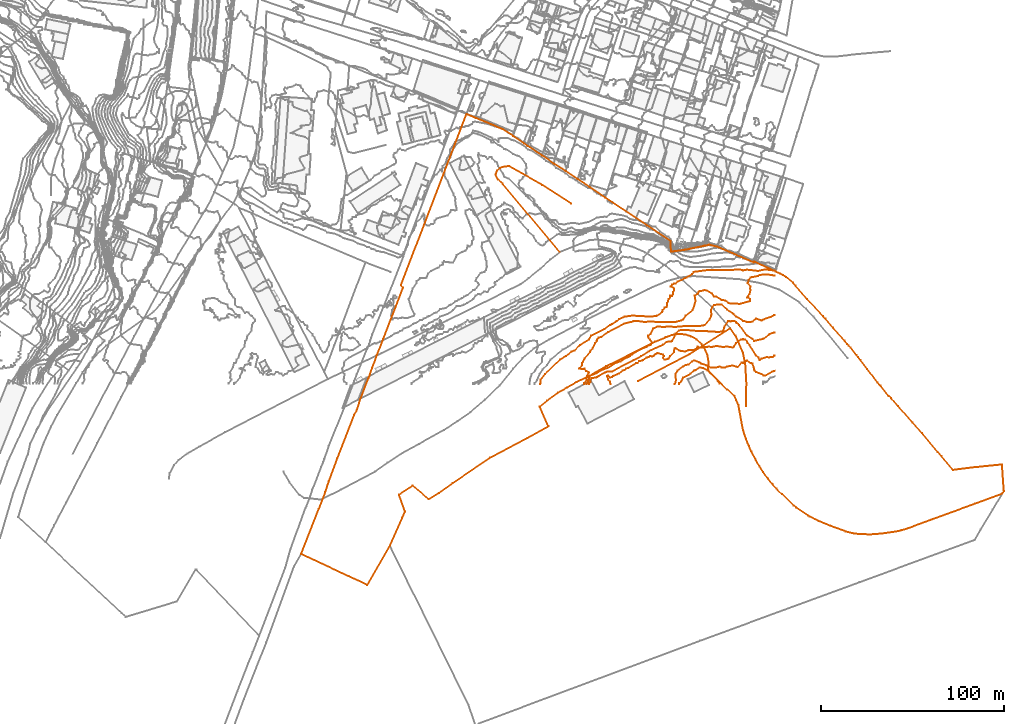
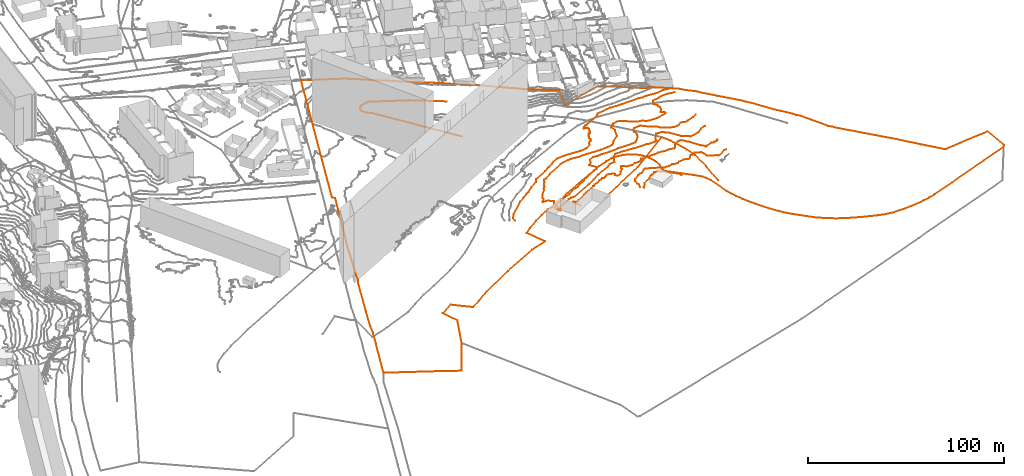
# Not in any storey, part 191 of 419: 11 proxies.
"""IFC2X3 model written with IfcOpenShell, lengths in metres."""

from ifc_helpers import new_model, entity, si_unit, frame, origin_with_axes, place, context, subcontext, project, element, save


model = new_model("IFC2X3")

# Units and contexts
model_context = context("Model", 3, precision=1e-05, world=origin_with_axes())
body_context = subcontext(model_context, "Body", "Model", "MODEL_VIEW")
ifc_project = project(units=[si_unit("AREAUNIT", "SQUARE_METRE"), si_unit("LENGTHUNIT", "METRE")], contexts=[model_context])

# Proxies
proxy_1_placement = place(None, frame((951.9920204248, 29.1976909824, 60.8), z_axis=(0.0, 0.0, 1.0), x_axis=(1.0, 0.0, 0.0)))
element("IfcBuildingElementProxy", 1, at=proxy_1_placement, Name="Route 92", ObjectType="NOTDEFINED", context=body_context, shape_type="GeometricCurveSet", body=[
    entity("IfcGeometricCurveSet", [entity("IfcPolyline", [entity("IfcCartesianPoint", [0.0, 0.0, 0.0]), entity("IfcCartesianPoint", [2.9, -4.2999999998, -0.6]), entity("IfcCartesianPoint", [6.9, -13.5999999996, -1.7]), entity("IfcCartesianPoint", [8.2, -19.7999999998, -2.0]), entity("IfcCartesianPoint", [8.7999999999, -30.0999999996, -2.8]), entity("IfcCartesianPoint", [8.5, -42.7999999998, -3.7])])]),
])
proxy_2_placement = place(None, frame((901.5920204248, 0.1976909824, 58.3), z_axis=(0.0, 0.0, 1.0), x_axis=(1.0, 0.0, 0.0)))
element("IfcBuildingElementProxy", 2, at=proxy_2_placement, Name="Route 161", ObjectType="NOTDEFINED", context=body_context, shape_type="GeometricCurveSet", body=[
    entity("IfcGeometricCurveSet", [entity("IfcPolyline", [entity("IfcCartesianPoint", [50.4, 29.0, 2.5]), entity("IfcCartesianPoint", [28.1, 14.7000000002, 0.4]), entity("IfcCartesianPoint", [0.0, 0.0, 0.0])])]),
])
proxy_3_placement = place(None, frame((823.3920204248, 113.0976909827, 71.5), z_axis=(0.0, 0.0, 1.0), x_axis=(1.0, 0.0, 0.0)))
element("IfcBuildingElementProxy", 3, at=proxy_3_placement, Name="Route 249", ObjectType="NOTDEFINED", context=body_context, shape_type="GeometricCurveSet", body=[
    entity("IfcGeometricCurveSet", [entity("IfcPolyline", [entity("IfcCartesianPoint", [35.2, -42.2999999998, -2.8]), entity("IfcCartesianPoint", [3.7999999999, -4.7999999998, 0.0]), entity("IfcCartesianPoint", [1.2999999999, -2.5, 0.0]), entity("IfcCartesianPoint", [0.0, 0.0, 0.0]), entity("IfcCartesianPoint", [0.7, 2.2000000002, 0.0]), entity("IfcCartesianPoint", [2.3999999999, 3.7999999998, 0.0]), entity("IfcCartesianPoint", [4.8999999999, 4.5999999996, 0.0]), entity("IfcCartesianPoint", [7.2999999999, 4.7000000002, 0.1]), entity("IfcCartesianPoint", [25.6, -5.5, 0.8]), entity("IfcCartesianPoint", [41.2999999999, -15.7000000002, 0.8])])]),
])
proxy_4_placement = place(None, frame((716.8020204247, -94.7123090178, 71.6362985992), z_axis=(0.0, 0.0, 1.0), x_axis=(1.0, 0.0, 0.0)))
element("IfcBuildingElementProxy", 4, at=proxy_4_placement, Name="Cadastre 322", ObjectType="NOTDEFINED", context=body_context, shape_type="GeometricCurveSet", body=[
    entity("IfcGeometricCurveSet", [entity("IfcPolyline", [entity("IfcCartesianPoint", [0.0, 0.0, 0.0]), entity("IfcCartesianPoint", [9.64, 24.5700000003, -0.0517969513]), entity("IfcCartesianPoint", [13.3300000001, 33.9800000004, -0.1625000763]), entity("IfcCartesianPoint", [15.17, 39.8700000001, -0.221498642]), entity("IfcCartesianPoint", [19.8400000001, 52.3400000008, -0.5103010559]), entity("IfcCartesianPoint", [29.0800000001, 76.1400000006, -0.7420983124]), entity("IfcCartesianPoint", [30.4800000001, 78.7700000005, -0.7700990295]), entity("IfcCartesianPoint", [32.4, 84.6400000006, -0.8711966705]), entity("IfcCartesianPoint", [36.9800000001, 96.6000000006, -1.2145969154]), entity("IfcCartesianPoint", [38.9300000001, 101.9000000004, -1.3347148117]), entity("IfcCartesianPoint", [41.4500000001, 108.7600000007, -1.4579762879]), entity("IfcCartesianPoint", [45.02, 117.79, -0.8748273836]), entity("IfcCartesianPoint", [55.8600000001, 146.0600000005, 0.6828062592]), entity("IfcCartesianPoint", [54.7000000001, 147.3000000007, 0.5906555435]), entity("IfcCartesianPoint", [90.5800000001, 241.1200000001, 4.1644204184]), entity("IfcCartesianPoint", [95.64, 238.9800000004, 3.8976608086]), entity("IfcCartesianPoint", [110.52, 232.8100000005, 3.2238228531]), entity("IfcCartesianPoint", [116.3100000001, 229.0300000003, 3.2139415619]), entity("IfcCartesianPoint", [122.1800000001, 225.0100000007, 3.0015499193]), entity("IfcCartesianPoint", [124.1000000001, 223.6300000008, 3.1212791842]), entity("IfcCartesianPoint", [132.0900000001, 218.4500000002, 2.897221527]), entity("IfcCartesianPoint", [138.4300000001, 213.9800000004, 2.6586416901]), entity("IfcCartesianPoint", [144.9900000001, 209.9100000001, 2.7509038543]), entity("IfcCartesianPoint", [151.53, 205.4500000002, 2.7365857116]), entity("IfcCartesianPoint", [158.13, 201.1100000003, 2.3907019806]), entity("IfcCartesianPoint", [166.5900000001, 195.3500000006, 2.3024200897]), entity("IfcCartesianPoint", [189.5600000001, 180.0900000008, 0.811254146]), entity("IfcCartesianPoint", [202.3600000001, 171.4900000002, 1.1457318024]), entity("IfcCartesianPoint", [202.6900000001, 165.7200000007, -4.7364280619]), entity("IfcCartesianPoint", [204.78, 165.9900000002, -5.0458697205]), entity("IfcCartesianPoint", [210.3600000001, 166.7200000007, -3.3770601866]), entity("IfcCartesianPoint", [212.4600000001, 167.1600000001, -3.063280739]), entity("IfcCartesianPoint", [221.0700000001, 168.9200000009, -3.0256118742]), entity("IfcCartesianPoint", [223.53, 169.4600000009, -2.7579472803]), entity("IfcCartesianPoint", [227.9, 168.4100000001, -3.5831963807]), entity("IfcCartesianPoint", [247.9700000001, 159.8300000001, -6.6129069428]), entity("IfcCartesianPoint", [248.0700000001, 160.3800000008, -6.1849346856]), entity("IfcCartesianPoint", [259.88, 154.8600000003, -7.8562988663]), entity("IfcCartesianPoint", [262.4300000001, 153.6800000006, -8.2727997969]), entity("IfcCartesianPoint", [264.0900000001, 152.7800000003, -8.7545988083]), entity("IfcCartesianPoint", [265.7300000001, 151.7800000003, -9.1061985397]), entity("IfcCartesianPoint", [269.4900000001, 148.6600000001, -9.2312988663]), entity("IfcCartesianPoint", [270.8100000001, 147.1200000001, -9.325897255]), entity("IfcCartesianPoint", [277.26, 139.8300000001, -9.4706986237]), entity("IfcCartesianPoint", [285.9600000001, 130.4500000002, -9.7222980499]), entity("IfcCartesianPoint", [287.27, 128.9400000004, -9.8632980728]), entity("IfcCartesianPoint", [291.38, 124.1600000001, -10.2422991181]), entity("IfcCartesianPoint", [297.75, 117.0500000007, -11.3556996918]), entity("IfcCartesianPoint", [299.27, 115.1800000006, -11.3927969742]), entity("IfcCartesianPoint", [300.05, 114.3400000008, -11.4116972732]), entity("IfcCartesianPoint", [301.1800000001, 113.1200000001, -11.4658003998]), entity("IfcCartesianPoint", [304.25, 109.1500000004, -11.6446970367]), entity("IfcCartesianPoint", [305.2400000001, 107.8900000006, -11.7206996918]), entity("IfcCartesianPoint", [306.4700000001, 106.29, -11.7444988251]), entity("IfcCartesianPoint", [310.1900000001, 101.4300000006, -12.5158989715]), entity("IfcCartesianPoint", [315.91, 94.0300000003, -13.9262995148]), entity("IfcCartesianPoint", [317.4300000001, 92.2200000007, -13.9262995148]), entity("IfcCartesianPoint", [321.9300000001, 86.7400000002, -13.9262995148]), entity("IfcCartesianPoint", [323.1800000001, 85.5900000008, -13.9262995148]), entity("IfcCartesianPoint", [327.0700000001, 81.1600000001, -13.9262995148]), entity("IfcCartesianPoint", [335.0700000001, 72.1300000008, -13.9262995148]), entity("IfcCartesianPoint", [340.2000000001, 66.4400000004, -13.9262995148]), entity("IfcCartesianPoint", [348.8400000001, 56.0600000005, -13.9262995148]), entity("IfcCartesianPoint", [350.78, 53.7600000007, -13.9262995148]), entity("IfcCartesianPoint", [357.26, 46.1400000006, -13.9262995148]), entity("IfcCartesianPoint", [358.4600000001, 46.3100000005, -13.9262995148]), entity("IfcCartesianPoint", [367.2200000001, 47.4700000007, -13.9262995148]), entity("IfcCartesianPoint", [383.6100000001, 49.0800000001, -13.9262995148]), entity("IfcCartesianPoint", [383.9800000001, 49.1100000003, -13.9262995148]), entity("IfcCartesianPoint", [385.01, 34.4600000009, -13.9262995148]), entity("IfcCartesianPoint", [384.1800000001, 33.2000000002, -13.9262995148]), entity("IfcCartesianPoint", [369.3, 27.6900000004, -13.9262995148]), entity("IfcCartesianPoint", [345.4800000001, 19.0, -13.9262995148]), entity("IfcCartesianPoint", [332.7200000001, 14.2700000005, -13.9262995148]), entity("IfcCartesianPoint", [329.1100000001, 13.1200000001, -13.9262995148]), entity("IfcCartesianPoint", [325.41, 12.3300000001, -13.9262995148]), entity("IfcCartesianPoint", [317.8500000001, 11.2700000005, -13.9262995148]), entity("IfcCartesianPoint", [312.3700000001, 10.8500000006, -13.9262995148]), entity("IfcCartesianPoint", [306.16, 10.9100000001, -13.9262995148]), entity("IfcCartesianPoint", [302.14, 11.4500000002, -13.9262995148]), entity("IfcCartesianPoint", [298.1900000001, 12.5100000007, -13.9262995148]), entity("IfcCartesianPoint", [289.7300000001, 15.5700000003, -13.9262995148]), entity("IfcCartesianPoint", [283.54, 18.1900000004, -13.9262995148]), entity("IfcCartesianPoint", [278.5800000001, 20.6600000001, -13.9262995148]), entity("IfcCartesianPoint", [277.6800000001, 21.1900000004, -13.9262995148]), entity("IfcCartesianPoint", [271.3400000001, 25.5, -13.9262995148]), entity("IfcCartesianPoint", [269.7400000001, 26.7400000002, -13.9262995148]), entity("IfcCartesianPoint", [263.4500000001, 32.8500000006, -13.9262995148]), entity("IfcCartesianPoint", [260.4400000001, 35.9100000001, -13.9262995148]), entity("IfcCartesianPoint", [258.26, 38.3400000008, -13.8944987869]), entity("IfcCartesianPoint", [255.8300000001, 41.3800000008, -13.7875000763]), entity("IfcCartesianPoint", [253.2200000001, 44.9700000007, -13.6519981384]), entity("IfcCartesianPoint", [251.29, 47.9300000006, -13.5562986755]), entity("IfcCartesianPoint", [249.05, 51.79, -13.5036979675]), entity("IfcCartesianPoint", [246.8100000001, 56.0800000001, -13.5062975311]), entity("IfcCartesianPoint", [245.39, 59.1700000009, -13.4822977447]), entity("IfcCartesianPoint", [243.8500000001, 63.0100000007, -13.4762987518]), entity("IfcCartesianPoint", [242.8100000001, 66.04, -13.4762987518]), entity("IfcCartesianPoint", [241.92, 69.1100000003, -13.5110995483]), entity("IfcCartesianPoint", [239.6100000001, 81.7600000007, -13.4636988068]), entity("IfcCartesianPoint", [238.4700000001, 84.4300000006, -13.3870986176]), entity("IfcCartesianPoint", [237.4400000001, 86.5, -13.318298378]), entity("IfcCartesianPoint", [233.4500000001, 90.2800000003, -13.189899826]), entity("IfcCartesianPoint", [223.4, 100.4400000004, -13.4849588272]), entity("IfcCartesianPoint", [223.0, 101.7400000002, -13.0886975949]), entity("IfcCartesianPoint", [223.27, 105.2800000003, -12.4585353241]), entity("IfcCartesianPoint", [222.7300000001, 108.8000000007, -12.150784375]), entity("IfcCartesianPoint", [221.4400000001, 112.1200000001, -11.8386287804]), entity("IfcCartesianPoint", [219.42, 115.0700000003, -11.5515940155]), entity("IfcCartesianPoint", [216.8100000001, 117.5, -11.2895650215]), entity("IfcCartesianPoint", [213.7300000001, 119.29, -11.215990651]), entity("IfcCartesianPoint", [210.3200000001, 120.3400000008, -11.0228979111]), entity("IfcCartesianPoint", [206.77, 120.6200000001, -10.8487007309]), entity("IfcCartesianPoint", [203.2400000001, 120.1000000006, -10.5571547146]), entity("IfcCartesianPoint", [199.91, 118.8100000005, -10.2184177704]), entity("IfcCartesianPoint", [199.39, 118.5200000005, -10.2360381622]), entity("IfcCartesianPoint", [194.01, 116.3700000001, -9.8615512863]), entity("IfcCartesianPoint", [167.0600000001, 102.9100000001, -9.3301186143]), entity("IfcCartesianPoint", [158.0, 97.6600000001, -10.0867292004]), entity("IfcCartesianPoint", [151.04, 94.3400000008, -8.4055473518]), entity("IfcCartesianPoint", [145.8300000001, 91.3600000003, -8.2266986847]), entity("IfcCartesianPoint", [140.8700000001, 88.4800000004, -8.1078998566]), entity("IfcCartesianPoint", [134.6900000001, 84.0100000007, -8.0842993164]), entity("IfcCartesianPoint", [130.76, 80.7400000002, -7.6951982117]), entity("IfcCartesianPoint", [135.52, 70.0600000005, -8.0570986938]), entity("IfcCartesianPoint", [124.0700000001, 63.7100000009, -5.4918985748]), entity("IfcCartesianPoint", [103.65, 52.8200000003, -4.8348963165]), entity("IfcCartesianPoint", [82.9400000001, 38.8400000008, -1.9322996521]), entity("IfcCartesianPoint", [75.6100000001, 33.5800000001, -1.8162989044]), entity("IfcCartesianPoint", [70.0, 30.0600000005, -1.8204981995]), entity("IfcCartesianPoint", [61.0600000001, 37.4800000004, -1.6890001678]), entity("IfcCartesianPoint", [53.65, 32.6100000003, -1.4862970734]), entity("IfcCartesianPoint", [56.9700000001, 23.4400000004, -1.5580971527]), entity("IfcCartesianPoint", [55.51, 20.0900000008, -1.5106967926]), entity("IfcCartesianPoint", [48.6900000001, 4.7800000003, -1.4272997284]), entity("IfcCartesianPoint", [36.29, -16.8099999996, -1.2013010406]), entity("IfcCartesianPoint", [26.14, -12.1199999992, -0.7402952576]), entity("IfcCartesianPoint", [0.3200000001, -0.0699999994, 0.0096020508]), entity("IfcCartesianPoint", [0.0, 0.0, 0.0])])]),
])
proxy_5_placement = place(None, frame((924.020603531, -1.6023090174, 58.0), z_axis=(0.0, 0.0, 1.0), x_axis=(1.0, 0.0, 0.0)))
element("IfcBuildingElementProxy", 5, at=proxy_5_placement, Name="Contour 58.0 m", ObjectType="NOTDEFINED", context=body_context, shape_type="GeometricCurveSet", body=[
    entity("IfcGeometricCurveSet", [entity("IfcPolyline", [entity("IfcCartesianPoint", [22.0288628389, 0.0, 0.0]), entity("IfcCartesianPoint", [22.0288628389, 0.5, 0.0]), entity("IfcCartesianPoint", [21.0714168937, 2.0625014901, 0.0]), entity("IfcCartesianPoint", [15.3839124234, 7.5, 0.0]), entity("IfcCartesianPoint", [13.0714168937, 8.8170758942, 0.0]), entity("IfcCartesianPoint", [11.0714168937, 9.1923031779, 0.0]), entity("IfcCartesianPoint", [9.0714168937, 7.7499761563, 0.0]), entity("IfcCartesianPoint", [8.0714168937, 7.4375104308, 0.0]), entity("IfcCartesianPoint", [6.0714168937, 5.6935519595, 0.0]), entity("IfcCartesianPoint", [2.0714212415, 3.5, 0.0]), entity("IfcCartesianPoint", [1.0714168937, 1.44118571, 0.0]), entity("IfcCartesianPoint", [0.0, 0.5, 0.0]), entity("IfcCartesianPoint", [0.0, 0.0, 0.0])])]),
])
proxy_6_placement = place(None, frame((921.5465665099, -1.6023090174, 59.0), z_axis=(0.0, 0.0, 1.0), x_axis=(1.0, 0.0, 0.0)))
element("IfcBuildingElementProxy", 6, at=proxy_6_placement, Name="Contour 59.0 m", ObjectType="NOTDEFINED", context=body_context, shape_type="GeometricCurveSet", body=[
    entity("IfcGeometricCurveSet", [entity("IfcPolyline", [entity("IfcCartesianPoint", [55.0454539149, 7.3717966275, 0.0]), entity("IfcCartesianPoint", [53.5454539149, 7.0238099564, 0.0]), entity("IfcCartesianPoint", [49.5454539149, 4.605266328, 0.0]), entity("IfcCartesianPoint", [48.5454539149, 4.7222269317, 0.0]), entity("IfcCartesianPoint", [47.5454539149, 5.4259243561, 0.0]), entity("IfcCartesianPoint", [44.5454539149, 6.6212142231, 0.0]), entity("IfcCartesianPoint", [43.6099712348, 7.5, 0.0]), entity("IfcCartesianPoint", [43.2597370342, 9.5, 0.0]), entity("IfcCartesianPoint", [42.5454539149, 11.3750178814, 0.0]), entity("IfcCartesianPoint", [41.5454539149, 11.4999888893, 0.0]), entity("IfcCartesianPoint", [39.5454539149, 12.833333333, 0.0]), entity("IfcCartesianPoint", [38.5454539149, 12.499983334, 0.0]), entity("IfcCartesianPoint", [37.5454539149, 11.6999694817, 0.0]), entity("IfcCartesianPoint", [36.5454539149, 11.7857220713, 0.0]), entity("IfcCartesianPoint", [34.5454539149, 9.357166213, 0.0]), entity("IfcCartesianPoint", [31.5454539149, 10.2500238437, 0.0]), entity("IfcCartesianPoint", [28.5454539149, 9.6818213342, 0.0]), entity("IfcCartesianPoint", [27.5454539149, 9.1666807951, 0.0]), entity("IfcCartesianPoint", [25.5454539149, 9.166666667, 0.0]), entity("IfcCartesianPoint", [24.5454539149, 9.6538484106, 0.0]), entity("IfcCartesianPoint", [22.5454539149, 9.0714441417, 0.0]), entity("IfcCartesianPoint", [19.5454539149, 9.0714285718, 0.0]), entity("IfcCartesianPoint", [17.5454539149, 10.3125074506, 0.0]), entity("IfcCartesianPoint", [14.5454539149, 11.2323959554, 0.0]), entity("IfcCartesianPoint", [13.5454539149, 11.9000000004, 0.0]), entity("IfcCartesianPoint", [10.5454539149, 13.0348822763, 0.0]), entity("IfcCartesianPoint", [9.4103204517, 12.5, 0.0]), entity("IfcCartesianPoint", [7.5454539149, 10.8076917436, 0.0]), entity("IfcCartesianPoint", [6.0069991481, 10.5, 0.0]), entity("IfcCartesianPoint", [4.5454539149, 9.7571444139, 0.0]), entity("IfcCartesianPoint", [1.5069985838, 7.5, 0.0]), entity("IfcCartesianPoint", [0.383289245, 5.5, 0.0]), entity("IfcCartesianPoint", [0.3826640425, 3.5, 0.0]), entity("IfcCartesianPoint", [0.8254526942, 2.5, 0.0]), entity("IfcCartesianPoint", [0.0, 0.0, 0.0])])]),
])
proxy_7_placement = place(None, frame((884.5920704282, 2.8976909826, 60.0), z_axis=(0.0, 0.0, 1.0), x_axis=(1.0, 0.0, 0.0)))
element("IfcBuildingElementProxy", 7, at=proxy_7_placement, Name="Contour 60.0 m", ObjectType="NOTDEFINED", context=body_context, shape_type="GeometricCurveSet", body=[
    entity("IfcGeometricCurveSet", [entity("IfcPolyline", [entity("IfcCartesianPoint", [91.9999499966, 11.2499761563, 0.0]), entity("IfcCartesianPoint", [91.4999499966, 11.2499761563, 0.0]), entity("IfcCartesianPoint", [90.4999499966, 10.2499761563, 0.0]), entity("IfcCartesianPoint", [89.4999499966, 10.3332909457, 0.0]), entity("IfcCartesianPoint", [88.4999499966, 9.9999800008, 0.0]), entity("IfcCartesianPoint", [87.4999499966, 10.4285558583, 0.0]), entity("IfcCartesianPoint", [84.4999499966, 9.4285558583, 0.0]), entity("IfcCartesianPoint", [83.4999499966, 8.7777730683, 0.0]), entity("IfcCartesianPoint", [82.7999423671, 10.0, 0.0]), entity("IfcCartesianPoint", [81.4999499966, 11.2142779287, 0.0]), entity("IfcCartesianPoint", [77.8777262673, 17.0, 0.0]), entity("IfcCartesianPoint", [76.7888407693, 18.0, 0.0]), entity("IfcCartesianPoint", [76.4999499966, 18.928583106, 0.0]), entity("IfcCartesianPoint", [75.4999499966, 19.857166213, 0.0]), entity("IfcCartesianPoint", [74.4999499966, 20.0908964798, 0.0]), entity("IfcCartesianPoint", [73.2499738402, 20.0, 0.0]), entity("IfcCartesianPoint", [70.4999499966, 18.142833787, 0.0]), entity("IfcCartesianPoint", [69.3888577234, 16.0, 0.0]), entity("IfcCartesianPoint", [68.4999499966, 15.5555461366, 0.0]), entity("IfcCartesianPoint", [65.4999499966, 16.1250029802, 0.0]), entity("IfcCartesianPoint", [63.4999499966, 15.8571389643, 0.0]), entity("IfcCartesianPoint", [59.4999499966, 16.4000050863, 0.0]), entity("IfcCartesianPoint", [57.4999499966, 15.9166799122, 0.0]), entity("IfcCartesianPoint", [55.4999499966, 15.9999916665, 0.0]), entity("IfcCartesianPoint", [50.4999499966, 15.4999833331, 0.0]), entity("IfcCartesianPoint", [49.4999499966, 16.071416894, 0.0]), entity("IfcCartesianPoint", [48.4999499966, 14.7500238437, 0.0]), entity("IfcCartesianPoint", [47.4999499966, 14.2499761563, 0.0]), entity("IfcCartesianPoint", [44.4999499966, 14.071416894, 0.0]), entity("IfcCartesianPoint", [42.4999499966, 13.3571389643, 0.0]), entity("IfcCartesianPoint", [39.4999499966, 13.8125074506, 0.0]), entity("IfcCartesianPoint", [37.4999499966, 15.1785694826, 0.0]), entity("IfcCartesianPoint", [36.9999599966, 15.0, 0.0]), entity("IfcCartesianPoint", [36.4999749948, 14.0, 0.0]), entity("IfcCartesianPoint", [36.499969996, 13.0, 0.0]), entity("IfcCartesianPoint", [34.3749678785, 11.0, 0.0]), entity("IfcCartesianPoint", [33.4999499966, 9.4000152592, 0.0]), entity("IfcCartesianPoint", [31.4999499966, 8.9000152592, 0.0]), entity("IfcCartesianPoint", [30.4999249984, 10.0, 0.0]), entity("IfcCartesianPoint", [31.1086442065, 11.0, 0.0]), entity("IfcCartesianPoint", [30.4999499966, 11.6363573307, 0.0]), entity("IfcCartesianPoint", [27.4999499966, 12.4999916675, 0.0]), entity("IfcCartesianPoint", [26.4999499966, 12.0714305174, 0.0]), entity("IfcCartesianPoint", [25.4999499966, 11.1499961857, 0.0]), entity("IfcCartesianPoint", [24.4999499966, 10.7142779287, 0.0]), entity("IfcCartesianPoint", [23.4999499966, 10.9000152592, 0.0]), entity("IfcCartesianPoint", [22.4999499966, 10.2777730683, 0.0]), entity("IfcCartesianPoint", [21.4999499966, 10.0975632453, 0.0]), entity("IfcCartesianPoint", [19.4999499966, 8.5999949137, 0.0]), entity("IfcCartesianPoint", [17.4999499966, 8.0963875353, 0.0]), entity("IfcCartesianPoint", [16.4999499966, 7.134614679, 0.0]), entity("IfcCartesianPoint", [15.8635926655, 7.0, 0.0]), entity("IfcCartesianPoint", [11.4999499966, 4.4117673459, 0.0]), entity("IfcCartesianPoint", [10.1666166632, 4.0, 0.0]), entity("IfcCartesianPoint", [9.4999499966, 3.2857220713, 0.0]), entity("IfcCartesianPoint", [8.4473268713, 3.0, 0.0]), entity("IfcCartesianPoint", [6.4999499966, 1.4444538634, 0.0]), entity("IfcCartesianPoint", [3.2142279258, 0.0, 0.0]), entity("IfcCartesianPoint", [2.4999499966, -0.7142779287, 0.0]), entity("IfcCartesianPoint", [1.4999499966, -0.7500238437, 0.0]), entity("IfcCartesianPoint", [0.4999499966, 0.142833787, 0.0]), entity("IfcCartesianPoint", [0.0, 0.0, 0.0]), entity("IfcCartesianPoint", [0.4999499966, -1.999900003, 0.0]), entity("IfcCartesianPoint", [1.4090535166, -3.0, 0.0]), entity("IfcCartesianPoint", [1.83328333, -4.5, 0.0])])]),
])
proxy_8_placement = place(None, frame((874.7084602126, -1.6023090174, 61.0), z_axis=(0.0, 0.0, 1.0), x_axis=(1.0, 0.0, 0.0)))
element("IfcBuildingElementProxy", 8, at=proxy_8_placement, Name="Contour 61.0 m", ObjectType="NOTDEFINED", context=body_context, shape_type="GeometricCurveSet", body=[
    entity("IfcGeometricCurveSet", [entity("IfcPolyline", [entity("IfcCartesianPoint", [101.8835602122, 28.3076940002, 0.0]), entity("IfcCartesianPoint", [100.3835602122, 28.1249910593, 0.0]), entity("IfcCartesianPoint", [98.3835602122, 27.2222269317, 0.0]), entity("IfcCartesianPoint", [95.3835602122, 24.8636426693, 0.0]), entity("IfcCartesianPoint", [90.3835602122, 23.7307647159, 0.0]), entity("IfcCartesianPoint", [89.3835602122, 24.7142779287, 0.0]), entity("IfcCartesianPoint", [86.3835602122, 26.586958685, 0.0]), entity("IfcCartesianPoint", [82.1648109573, 32.5, 0.0]), entity("IfcCartesianPoint", [80.7519786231, 33.5, 0.0]), entity("IfcCartesianPoint", [80.3835602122, 34.166666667, 0.0]), entity("IfcCartesianPoint", [79.3835602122, 34.6874925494, 0.0]), entity("IfcCartesianPoint", [77.3835602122, 34.4230882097, 0.0]), entity("IfcCartesianPoint", [76.3835602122, 34.7000000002, 0.0]), entity("IfcCartesianPoint", [76.0502268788, 34.5, 0.0]), entity("IfcCartesianPoint", [74.0199175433, 31.5, 0.0]), entity("IfcCartesianPoint", [73.3835602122, 29.1250059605, 0.0]), entity("IfcCartesianPoint", [72.3835602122, 28.7307647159, 0.0]), entity("IfcCartesianPoint", [69.3835602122, 28.6071389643, 0.0]), entity("IfcCartesianPoint", [67.3835602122, 28.941856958, 0.0]), entity("IfcCartesianPoint", [60.3835602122, 28.9999983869, 0.0]), entity("IfcCartesianPoint", [53.3835602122, 29.6607141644, 0.0]), entity("IfcCartesianPoint", [49.2169147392, 29.5, 0.0]), entity("IfcCartesianPoint", [47.3835602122, 27.833333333, 0.0]), entity("IfcCartesianPoint", [45.3835602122, 23.4999900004, 0.0]), entity("IfcCartesianPoint", [42.3835602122, 23.166659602, 0.0]), entity("IfcCartesianPoint", [40.3835602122, 21.624996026, 0.0]), entity("IfcCartesianPoint", [32.3835602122, 17.9583326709, 0.0]), entity("IfcCartesianPoint", [28.3835602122, 15.2999961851, 0.0]), entity("IfcCartesianPoint", [24.3835602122, 13.0909106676, 0.0]), entity("IfcCartesianPoint", [12.3835602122, 7.0434793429, 0.0]), entity("IfcCartesianPoint", [10.3835602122, 7.0135137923, 0.0]), entity("IfcCartesianPoint", [8.6108321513, 6.5, 0.0]), entity("IfcCartesianPoint", [5.0978381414, 4.5, 0.0]), entity("IfcCartesianPoint", [4.3835602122, 3.7857220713, 0.0]), entity("IfcCartesianPoint", [1.3835602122, 3.2727280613, 0.0]), entity("IfcCartesianPoint", [0.439107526, 2.5, 0.0]), entity("IfcCartesianPoint", [0.7619380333, 1.5, 0.0]), entity("IfcCartesianPoint", [0.0, 0.5, 0.0]), entity("IfcCartesianPoint", [0.0, 0.0, 0.0])])]),
])
proxy_9_placement = place(None, frame((873.3683356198, -1.6023090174, 62.0), z_axis=(0.0, 0.0, 1.0), x_axis=(1.0, 0.0, 0.0)))
element("IfcBuildingElementProxy", 9, at=proxy_9_placement, Name="Contour 62.0 m", ObjectType="NOTDEFINED", context=body_context, shape_type="GeometricCurveSet", body=[
    entity("IfcGeometricCurveSet", [entity("IfcPolyline", [entity("IfcCartesianPoint", [103.223684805, 37.9999750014, 0.0]), entity("IfcCartesianPoint", [102.723684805, 37.9999750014, 0.0]), entity("IfcCartesianPoint", [100.723684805, 36.8333192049, 0.0]), entity("IfcCartesianPoint", [96.723684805, 35.4999909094, 0.0]), entity("IfcCartesianPoint", [95.723684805, 34.9166640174, 0.0]), entity("IfcCartesianPoint", [92.723684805, 35.8333192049, 0.0]), entity("IfcCartesianPoint", [90.723684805, 34.4000152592, 0.0]), entity("IfcCartesianPoint", [89.723684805, 33.9999900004, 0.0]), entity("IfcCartesianPoint", [87.723684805, 34.0555461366, 0.0]), entity("IfcCartesianPoint", [85.723684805, 34.6818213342, 0.0]), entity("IfcCartesianPoint", [81.723684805, 37.0454640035, 0.0]), entity("IfcCartesianPoint", [80.4273822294, 38.5, 0.0]), entity("IfcCartesianPoint", [76.723684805, 40.833333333, 0.0]), entity("IfcCartesianPoint", [73.723684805, 43.517854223, 0.0]), entity("IfcCartesianPoint", [72.723684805, 43.7272719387, 0.0]), entity("IfcCartesianPoint", [69.723684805, 43.3750178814, 0.0]), entity("IfcCartesianPoint", [68.8486669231, 42.5, 0.0]), entity("IfcCartesianPoint", [67.9736609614, 40.5, 0.0]), entity("IfcCartesianPoint", [68.323684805, 38.5, 0.0]), entity("IfcCartesianPoint", [68.1782208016, 37.5, 0.0]), entity("IfcCartesianPoint", [67.2792309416, 35.5, 0.0]), entity("IfcCartesianPoint", [64.523684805, 32.5, 0.0]), entity("IfcCartesianPoint", [63.723684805, 32.1363573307, 0.0]), entity("IfcCartesianPoint", [60.723684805, 31.7692313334, 0.0]), entity("IfcCartesianPoint", [53.723684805, 31.8333298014, 0.0]), entity("IfcCartesianPoint", [48.723684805, 31.3666638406, 0.0]), entity("IfcCartesianPoint", [43.723684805, 31.5222186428, 0.0]), entity("IfcCartesianPoint", [42.723684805, 31.2179467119, 0.0]), entity("IfcCartesianPoint", [38.723684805, 31.5731677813, 0.0]), entity("IfcCartesianPoint", [36.3903514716, 30.5, 0.0]), entity("IfcCartesianPoint", [34.9236542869, 27.5, 0.0]), entity("IfcCartesianPoint", [33.5237153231, 26.5, 0.0]), entity("IfcCartesianPoint", [33.723684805, 25.500099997, 0.0]), entity("IfcCartesianPoint", [34.723684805, 24.500099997, 0.0]), entity("IfcCartesianPoint", [35.723684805, 22.8332909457, 0.0]), entity("IfcCartesianPoint", [35.8005965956, 22.5, 0.0]), entity("IfcCartesianPoint", [34.8436799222, 21.5, 0.0]), entity("IfcCartesianPoint", [33.723684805, 21.2142818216, 0.0]), entity("IfcCartesianPoint", [32.723684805, 20.467747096, 0.0]), entity("IfcCartesianPoint", [29.723684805, 19.2500047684, 0.0]), entity("IfcCartesianPoint", [24.723684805, 16.3500038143, 0.0]), entity("IfcCartesianPoint", [23.723684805, 15.3148179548, 0.0]), entity("IfcCartesianPoint", [20.723684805, 13.9736884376, 0.0]), entity("IfcCartesianPoint", [18.5472194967, 12.5, 0.0]), entity("IfcCartesianPoint", [15.723684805, 11.6777815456, 0.0]), entity("IfcCartesianPoint", [11.723684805, 8.9705875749, 0.0]), entity("IfcCartesianPoint", [8.723684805, 7.9642847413, 0.0]), entity("IfcCartesianPoint", [4.723684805, 5.7833310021, 0.0]), entity("IfcCartesianPoint", [1.723684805, 4.6951218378, 0.0]), entity("IfcCartesianPoint", [0.0, 0.0, 0.0])])]),
])
proxy_10_placement = place(None, frame((869.0921204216, 6.8976909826, 63.0), z_axis=(0.0, 0.0, 1.0), x_axis=(1.0, 0.0, 0.0)))
element("IfcBuildingElementProxy", 10, at=proxy_10_placement, Name="Contour 63.0 m", ObjectType="NOTDEFINED", context=body_context, shape_type="GeometricCurveSet", body=[
    entity("IfcGeometricCurveSet", [entity("IfcPolyline", [entity("IfcCartesianPoint", [107.4999000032, 50.901961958, 0.0]), entity("IfcCartesianPoint", [102.9999000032, 51.5789489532, 0.0]), entity("IfcCartesianPoint", [98.9999000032, 51.3571389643, 0.0]), entity("IfcCartesianPoint", [97.9999000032, 50.7777730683, 0.0]), entity("IfcCartesianPoint", [93.9999200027, 50.0, 0.0]), entity("IfcCartesianPoint", [92.9999000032, 48.4999499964, 0.0]), entity("IfcCartesianPoint", [92.4284558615, 47.0, 0.0]), entity("IfcCartesianPoint", [93.999911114, 45.0, 0.0]), entity("IfcCartesianPoint", [93.6665666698, 44.0, 0.0]), entity("IfcCartesianPoint", [93.9999200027, 43.0, 0.0]), entity("IfcCartesianPoint", [93.3999152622, 41.0, 0.0]), entity("IfcCartesianPoint", [92.0, 39.0, 0.0]), entity("IfcCartesianPoint", [92.9999000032, 38.857166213, 0.0]), entity("IfcCartesianPoint", [93.8570662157, 38.0, 0.0]), entity("IfcCartesianPoint", [93.6666090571, 37.0, 0.0]), entity("IfcCartesianPoint", [87.9999000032, 35.4999916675, 0.0]), entity("IfcCartesianPoint", [82.9999000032, 35.6315778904, 0.0]), entity("IfcCartesianPoint", [81.9999000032, 35.954552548, 0.0]), entity("IfcCartesianPoint", [79.9999000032, 37.2916679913, 0.0]), entity("IfcCartesianPoint", [77.9999000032, 37.714283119, 0.0]), entity("IfcCartesianPoint", [74.9999000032, 39.4179097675, 0.0]), entity("IfcCartesianPoint", [73.9999000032, 39.6236576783, 0.0]), entity("IfcCartesianPoint", [72.9999000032, 41.0151489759, 0.0]), entity("IfcCartesianPoint", [69.9999000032, 42.8571480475, 0.0]), entity("IfcCartesianPoint", [68.6665666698, 43.0, 0.0]), entity("IfcCartesianPoint", [65.9999000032, 42.4000050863, 0.0]), entity("IfcCartesianPoint", [65.3999000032, 42.0, 0.0]), entity("IfcCartesianPoint", [64.9999000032, 40.9999857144, 0.0]), entity("IfcCartesianPoint", [63.3999152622, 40.0, 0.0]), entity("IfcCartesianPoint", [63.8749178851, 37.0, 0.0]), entity("IfcCartesianPoint", [62.2726146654, 32.0, 0.0]), entity("IfcCartesianPoint", [58.49991667, 29.0, 0.0]), entity("IfcCartesianPoint", [56.9999000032, 26.9999888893, 0.0]), entity("IfcCartesianPoint", [55.9999000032, 26.4000050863, 0.0]), entity("IfcCartesianPoint", [52.9999000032, 25.645160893, 0.0]), entity("IfcCartesianPoint", [48.9999000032, 25.399998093, 0.0]), entity("IfcCartesianPoint", [37.9999000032, 25.7812507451, 0.0]), entity("IfcCartesianPoint", [35.9999000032, 25.5312447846, 0.0]), entity("IfcCartesianPoint", [31.9999000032, 26.0731677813, 0.0]), entity("IfcCartesianPoint", [29.9999000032, 25.9729774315, 0.0]), entity("IfcCartesianPoint", [24.9999000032, 24.7777730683, 0.0]), entity("IfcCartesianPoint", [15.9999000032, 20.0270225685, 0.0]), entity("IfcCartesianPoint", [11.9999000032, 17.3636426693, 0.0]), entity("IfcCartesianPoint", [10.8094186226, 17.0, 0.0]), entity("IfcCartesianPoint", [9.9499076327, 16.0, 0.0]), entity("IfcCartesianPoint", [9.7271853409, 15.0, 0.0]), entity("IfcCartesianPoint", [8.8570389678, 14.0, 0.0]), entity("IfcCartesianPoint", [7.3748940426, 11.0, 0.0]), entity("IfcCartesianPoint", [6.3332333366, 10.0, 0.0]), entity("IfcCartesianPoint", [5.9999000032, 8.999966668, 0.0]), entity("IfcCartesianPoint", [2.9999000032, 5.4999499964, 0.0]), entity("IfcCartesianPoint", [1.7499238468, 3.0, 0.0]), entity("IfcCartesianPoint", [1.7499238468, 2.0, 0.0]), entity("IfcCartesianPoint", [0.0, 0.0, 0.0]), entity("IfcCartesianPoint", [1.9999000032, -0.2000000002, 0.0]), entity("IfcCartesianPoint", [2.9999000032, 1.6666e-05, 0.0]), entity("IfcCartesianPoint", [3.9999000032, -1.249992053, 0.0]), entity("IfcCartesianPoint", [5.4999250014, -2.0, 0.0]), entity("IfcCartesianPoint", [4.3537466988, -4.0, 0.0]), entity("IfcCartesianPoint", [4.2499009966, -6.0, 0.0]), entity("IfcCartesianPoint", [2.7499079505, -8.0, 0.0]), entity("IfcCartesianPoint", [2.7499079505, -8.5, 0.0])])]),
])
proxy_11_placement = place(None, frame((847.9028334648, -1.6023090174, 64.0), z_axis=(0.0, 0.0, 1.0), x_axis=(1.0, 0.0, 0.0)))
element("IfcBuildingElementProxy", 11, at=proxy_11_placement, Name="Contour 64.0 m", ObjectType="NOTDEFINED", context=body_context, shape_type="GeometricCurveSet", body=[
    entity("IfcGeometricCurveSet", [entity("IfcPolyline", [entity("IfcCartesianPoint", [128.68918696, 62.1153880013, 0.0]), entity("IfcCartesianPoint", [123.18918696, 62.8500038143, 0.0]), entity("IfcCartesianPoint", [119.18918696, 61.9999940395, 0.0]), entity("IfcCartesianPoint", [113.18918696, 62.7156865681, 0.0]), entity("IfcCartesianPoint", [111.18918696, 62.3260835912, 0.0]), entity("IfcCartesianPoint", [109.18918696, 62.7600001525, 0.0]), entity("IfcCartesianPoint", [99.18918696, 62.4230893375, 0.0]), entity("IfcCartesianPoint", [92.18918696, 62.5961522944, 0.0]), entity("IfcCartesianPoint", [84.0780946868, 61.5, 0.0]), entity("IfcCartesianPoint", [83.18918696, 60.2499523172, 0.0]), entity("IfcCartesianPoint", [80.18918696, 58.4999875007, 0.0]), entity("IfcCartesianPoint", [75.18918696, 56.1666807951, 0.0]), entity("IfcCartesianPoint", [74.18918696, 55.2500357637, 0.0]), entity("IfcCartesianPoint", [73.18918696, 55.0999999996, 0.0]), entity("IfcCartesianPoint", [72.1892036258, 54.5, 0.0]), entity("IfcCartesianPoint", [71.3892174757, 53.5, 0.0]), entity("IfcCartesianPoint", [73.3558854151, 52.5, 0.0]), entity("IfcCartesianPoint", [73.3558854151, 51.5, 0.0]), entity("IfcCartesianPoint", [72.7606311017, 50.5, 0.0]), entity("IfcCartesianPoint", [72.7725229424, 49.5, 0.0]), entity("IfcCartesianPoint", [72.18918696, 48.3333015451, 0.0]), entity("IfcCartesianPoint", [71.18918696, 48.499900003, 0.0]), entity("IfcCartesianPoint", [71.0463453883, 47.5, 0.0]), entity("IfcCartesianPoint", [70.1892069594, 46.5, 0.0]), entity("IfcCartesianPoint", [70.0225520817, 45.5, 0.0]), entity("IfcCartesianPoint", [69.4391511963, 44.5, 0.0]), entity("IfcCartesianPoint", [69.5225626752, 43.5, 0.0]), entity("IfcCartesianPoint", [69.18918696, 42.2999694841, 0.0]), entity("IfcCartesianPoint", [68.18918696, 42.0000476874, 0.0]), entity("IfcCartesianPoint", [67.0463453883, 40.5, 0.0]), entity("IfcCartesianPoint", [66.7891717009, 39.5, 0.0]), entity("IfcCartesianPoint", [63.9392108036, 37.5, 0.0]), entity("IfcCartesianPoint", [63.18918696, 37.3125074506, 0.0]), entity("IfcCartesianPoint", [60.18918696, 36.999992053, 0.0]), entity("IfcCartesianPoint", [50.18918696, 37.5588248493, 0.0]), entity("IfcCartesianPoint", [46.18918696, 36.9516144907, 0.0]), entity("IfcCartesianPoint", [43.18918696, 35.6612871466, 0.0]), entity("IfcCartesianPoint", [41.78918696, 34.5, 0.0]), entity("IfcCartesianPoint", [39.18918696, 32.8076968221, 0.0]), entity("IfcCartesianPoint", [38.18918696, 32.4999941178, 0.0]), entity("IfcCartesianPoint", [35.18918696, 30.3275784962, 0.0]), entity("IfcCartesianPoint", [27.8558536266, 26.5, 0.0]), entity("IfcCartesianPoint", [26.5891767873, 24.5, 0.0]), entity("IfcCartesianPoint", [21.8255442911, 21.5, 0.0]), entity("IfcCartesianPoint", [18.689179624, 18.5, 0.0]), entity("IfcCartesianPoint", [17.18918696, 17.8793112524, 0.0]), entity("IfcCartesianPoint", [14.1225304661, 15.5, 0.0]), entity("IfcCartesianPoint", [10.8255442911, 13.5, 0.0]), entity("IfcCartesianPoint", [2.4891793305, 5.5, 0.0]), entity("IfcCartesianPoint", [0.2661070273, 2.5, 0.0]), entity("IfcCartesianPoint", [0.0, 0.0, 0.0])])]),
])

save(model, "model.ifc")
